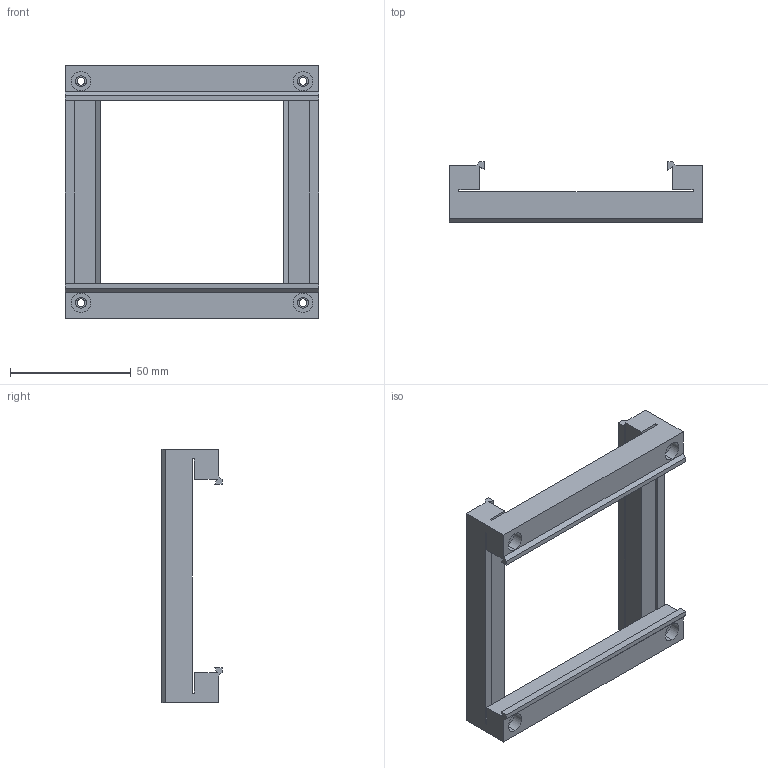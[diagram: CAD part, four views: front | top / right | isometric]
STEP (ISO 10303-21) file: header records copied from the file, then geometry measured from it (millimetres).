
FILE_DESCRIPTION (( 'STEP AP203' ), '1' );
FILE_NAME ('X-Y Verbindung dL80.STEP', '2002-07-08T12:57:27', ( '' ), ( '' ), 'SwSTEP 2.0', 'SolidWorks 2002127', '' );
FILE_SCHEMA (( 'CONFIG_CONTROL_DESIGN' ));
Length unit declared in the file: millimetre
Products named in the file (1): X-Y Verbindung dL80
Bounding box: 105 x 25 x 105 mm (x, y, z)
Volume: 55282.3 mm3; surface area: 24946.1 mm2
Topology: 1 solids, 1 shells, 68 faces, 188 edges, 124 vertices
Faces by surface type: plane 44, cylinder 24
Entity records: 2281 total; most frequent: CARTESIAN_POINT 381, ORIENTED_EDGE 376, DIRECTION 374, EDGE_CURVE 188, LINE 140, VECTOR 140, VERTEX_POINT 124, AXIS2_PLACEMENT_3D 117
